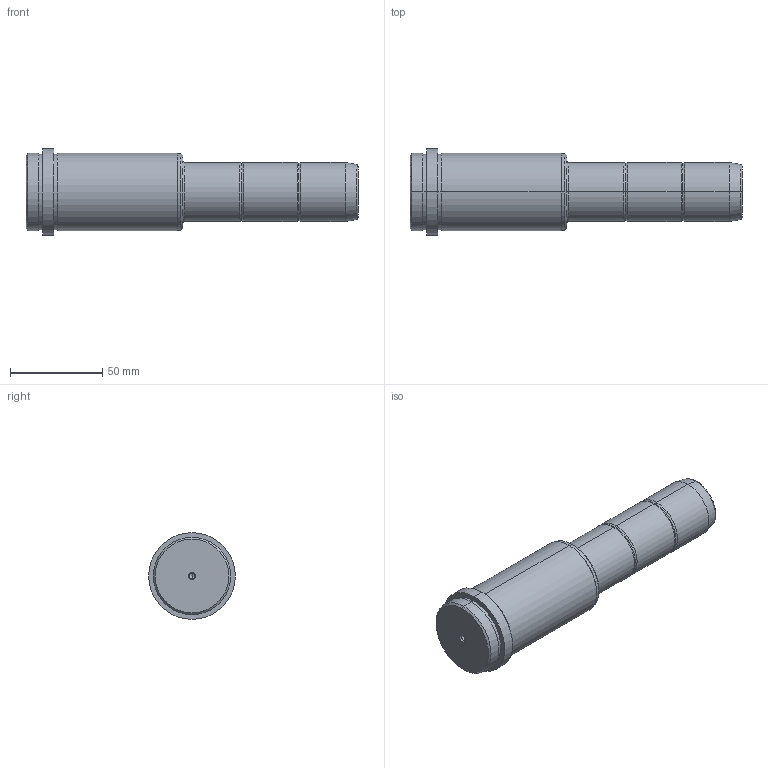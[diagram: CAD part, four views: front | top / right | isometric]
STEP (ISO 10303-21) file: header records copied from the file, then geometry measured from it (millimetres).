
FILE_DESCRIPTION( ( 'STEP AP203' ), '1' );
FILE_NAME( 'C:/Projects/D03 - 32x76x95.step', '2003-01-03T23:17:57', ( ' ' ), ( ' ' ), 'XStep 1.0', ' ', ' ' );
FILE_SCHEMA( ( 'CONFIG_CONTROL_DESIGN' ) );
Length unit declared in the file: metre
Products named in the file (1): 1
Bounding box: 180 x 47 x 47 mm (x, y, z)
Volume: 195436.2 mm3; surface area: 24305.6 mm2
Topology: 1 solids, 1 shells, 56 faces, 113 edges, 64 vertices
Faces by surface type: revolution 36, bspline 20
Entity records: 1691 total; most frequent: CARTESIAN_POINT 513, ORIENTED_EDGE 220, DIRECTION 218, EDGE_CURVE 110, AXIS2_PLACEMENT_3D 73, CIRCLE 72, EDGE_LOOP 64, VERTEX_POINT 64
